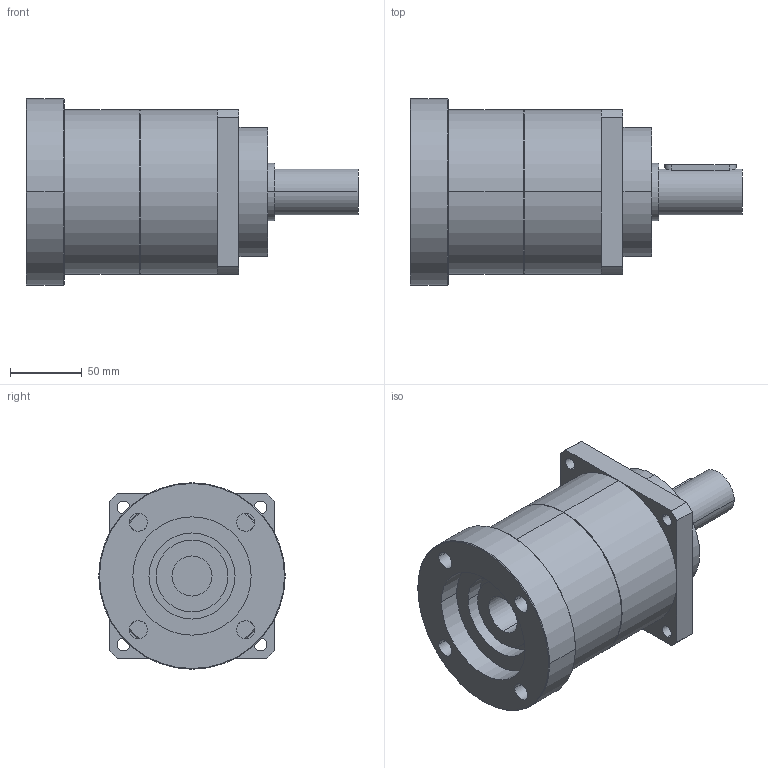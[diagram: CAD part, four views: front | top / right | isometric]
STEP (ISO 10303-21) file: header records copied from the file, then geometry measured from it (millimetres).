
FILE_DESCRIPTION(('CoCreate Modeling STEP Export'),'2;1');
FILE_NAME('GPT120_ig-3-4-5-7-10_32_B5A_28_P21.stp','2015-02-04T17:00:56',(''),(''),'CoCreate Modeling STEP processor for AP214 (Solid Model)','CoCreate Modeling 16.00C 25-Feb-2009 (C) Parametric Technology GmbH','');
FILE_SCHEMA(('AUTOMOTIVE_DESIGN { 1 0 10303 214 1 1 1 1 }'));
Length unit declared in the file: millimetre
Products named in the file (2): GPT120_ig-3-4-5-7-10_32_B5A_28_P21
Assembly tree (1 placements, depth 2):
  GPT120_ig-3-4-5-7-10_32_B5A_28_P21
    GPT120_ig-3-4-5-7-10_32_B5A_28_P21
Bounding box: 231.5 x 130 x 130 mm (x, y, z)
Volume: 1689175.8 mm3; surface area: 119284.3 mm2
Topology: 1 solids, 1 shells, 79 faces, 204 edges, 133 vertices
Faces by surface type: cylinder 44, plane 27, cone 8
Entity records: 2494 total; most frequent: CARTESIAN_POINT 739, ORIENTED_EDGE 408, DIRECTION 302, EDGE_CURVE 204, VERTEX_POINT 133, AXIS2_PLACEMENT_3D 114, EDGE_LOOP 101, FACE_OUTER_BOUND 79
